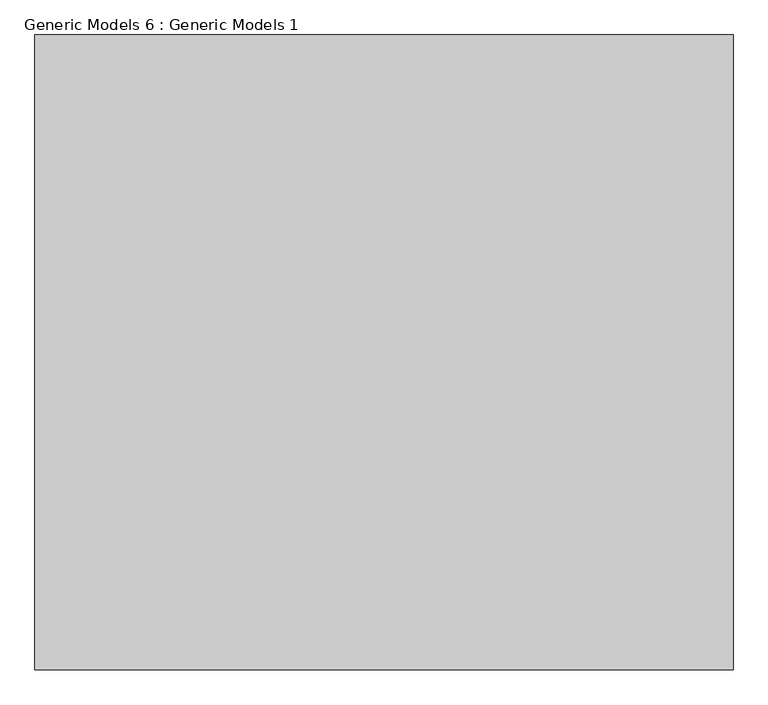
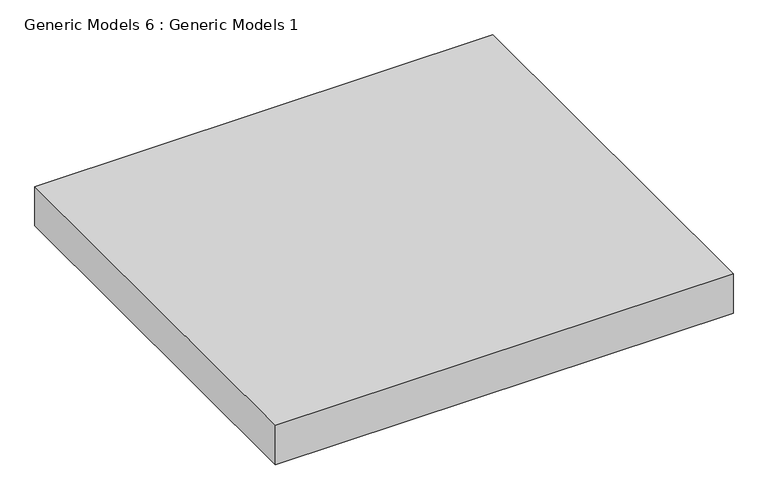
"""IFC4 building model written with IfcOpenShell, lengths in millimetres: proxy geometry, Generic Models 6 : Generic Models 1."""

from ifc_helpers import new_model, si_unit, origin, origin_with_axes, place, context, project, spatial, polyline, outline, extrude, source, transform, mapped, element, save


def generic_models_6_generic_models_1_0bd24bc8(model_context):
    return source(origin(), model_context, "Body", "SweptSolid", [
        extrude(outline(polyline([(-1634.8233874, -173.3596473), (-1634.8233874, 826.6403527), (-534.8233874, 826.6403527), (-534.8233874, -173.3596473), (-1634.8233874, -173.3596473)])), origin_with_axes(), (0.0, 0.0, 1.0), 100.0),
    ])


if __name__ == "__main__":
    model = new_model("IFC4")
    model_context = context("Model", 3, world=origin())
    ifc_project = project(units=[si_unit("LENGTHUNIT", "METRE", prefix="MILLI")], contexts=[model_context])
    site = spatial("IfcSite", under=ifc_project)
    building = spatial("IfcBuilding", under=site)
    placement = place(None, origin())
    generic_models_6_generic_models_1_shape = generic_models_6_generic_models_1_0bd24bc8(model_context)
    element("IfcBuildingElementProxy", 1, Name="Generic Models 6 : Generic Models 1", ObjectType="Generic Models 6 : Generic Models 1", at=placement, inside=building, context=model_context, shape_type="MappedRepresentation", body=[
        mapped(generic_models_6_generic_models_1_shape, transform((0.0, 0.0, 0.0), x_axis=(1.0, 0.0, 0.0), y_axis=(0.0, 1.0, 0.0), z_axis=(0.0, 0.0, 1.0))),
    ])
    save(model, "model.ifc")
